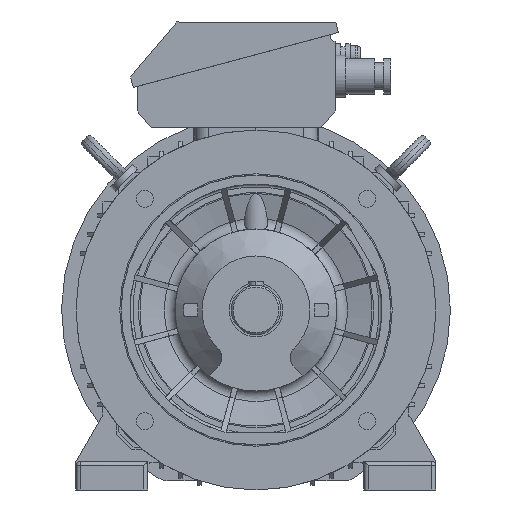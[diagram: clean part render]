
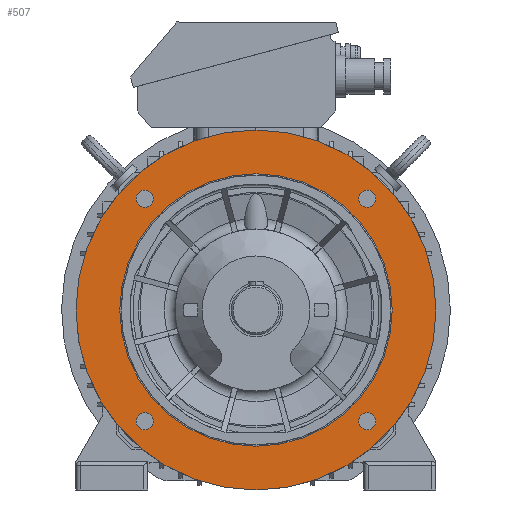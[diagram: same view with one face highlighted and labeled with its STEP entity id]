
A CAD part, front view. The second image highlights one B-rep face of the part: STEP entity #507.
In plain terms, the highlighted planar face has unit normal (0, -1, 0).
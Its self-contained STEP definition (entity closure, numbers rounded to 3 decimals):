
#507 = ADVANCED_FACE( '', ( #1870, #1871, #1872, #1873, #1874, #1875 ), #1876, .F. );
#1870 = FACE_BOUND( '', #4559, .T. );
#1871 = FACE_BOUND( '', #4560, .T. );
#1872 = FACE_BOUND( '', #4561, .T. );
#1873 = FACE_BOUND( '', #4562, .T. );
#1874 = FACE_OUTER_BOUND( '', #4563, .T. );
#1875 = FACE_BOUND( '', #4564, .T. );
#1876 = PLANE( '', #4565 );
#4559 = EDGE_LOOP( '', ( #9067 ) );
#4560 = EDGE_LOOP( '', ( #9068 ) );
#4561 = EDGE_LOOP( '', ( #9069 ) );
#4562 = EDGE_LOOP( '', ( #9070 ) );
#4563 = EDGE_LOOP( '', ( #9071 ) );
#4564 = EDGE_LOOP( '', ( #9072 ) );
#4565 = AXIS2_PLACEMENT_3D( '', #9073, #9074, #9075 );
#9067 = ORIENTED_EDGE( '', *, *, #15268, .F. );
#9068 = ORIENTED_EDGE( '', *, *, #15269, .F. );
#9069 = ORIENTED_EDGE( '', *, *, #15270, .F. );
#9070 = ORIENTED_EDGE( '', *, *, #15271, .F. );
#9071 = ORIENTED_EDGE( '', *, *, #15267, .T. );
#9072 = ORIENTED_EDGE( '', *, *, #15272, .F. );
#9073 = CARTESIAN_POINT( '', ( 199.994, -73.004, 0. ) );
#9074 = DIRECTION( '', ( 0., 1., 0. ) );
#9075 = DIRECTION( '', ( 1., 0., 0. ) );
#15267 = EDGE_CURVE( '', #18992, #18992, #18993, .T. );
#15268 = EDGE_CURVE( '', #18994, #18994, #18995, .T. );
#15269 = EDGE_CURVE( '', #18996, #18996, #18997, .T. );
#15270 = EDGE_CURVE( '', #18998, #18998, #18999, .T. );
#15271 = EDGE_CURVE( '', #19000, #19000, #19001, .T. );
#15272 = EDGE_CURVE( '', #19002, #19002, #19003, .T. );
#18992 = VERTEX_POINT( '', #27855 );
#18993 = CIRCLE( '', #27856, 199.994 );
#18994 = VERTEX_POINT( '', #27857 );
#18995 = CIRCLE( '', #27858, 9.5 );
#18996 = VERTEX_POINT( '', #27859 );
#18997 = CIRCLE( '', #27860, 9.5 );
#18998 = VERTEX_POINT( '', #27861 );
#18999 = CIRCLE( '', #27862, 9.5 );
#19000 = VERTEX_POINT( '', #27863 );
#19001 = CIRCLE( '', #27864, 9.5 );
#19002 = VERTEX_POINT( '', #27865 );
#19003 = CIRCLE( '', #27866, 151.394 );
#27855 = CARTESIAN_POINT( '', ( -199.994, -73.004, 0. ) );
#27856 = AXIS2_PLACEMENT_3D( '', #32518, #32519, #32520 );
#27857 = CARTESIAN_POINT( '', ( -123.744, -73.004, 114.244 ) );
#27858 = AXIS2_PLACEMENT_3D( '', #32521, #32522, #32523 );
#27859 = CARTESIAN_POINT( '', ( -123.744, -73.004, -133.244 ) );
#27860 = AXIS2_PLACEMENT_3D( '', #32524, #32525, #32526 );
#27861 = CARTESIAN_POINT( '', ( 123.744, -73.004, -133.244 ) );
#27862 = AXIS2_PLACEMENT_3D( '', #32527, #32528, #32529 );
#27863 = CARTESIAN_POINT( '', ( 123.744, -73.004, 114.244 ) );
#27864 = AXIS2_PLACEMENT_3D( '', #32530, #32531, #32532 );
#27865 = CARTESIAN_POINT( '', ( -151.394, -73.004, 0. ) );
#27866 = AXIS2_PLACEMENT_3D( '', #32533, #32534, #32535 );
#32518 = CARTESIAN_POINT( '', ( 0., -73.004, 0. ) );
#32519 = DIRECTION( '', ( 0., -1., 0. ) );
#32520 = DIRECTION( '', ( -1., 0., 0. ) );
#32521 = CARTESIAN_POINT( '', ( -123.744, -73.004, 123.744 ) );
#32522 = DIRECTION( '', ( 0., -1., 0. ) );
#32523 = DIRECTION( '', ( 0., 0., -1. ) );
#32524 = CARTESIAN_POINT( '', ( -123.744, -73.004, -123.744 ) );
#32525 = DIRECTION( '', ( 0., -1., 0. ) );
#32526 = DIRECTION( '', ( 0., 0., -1. ) );
#32527 = CARTESIAN_POINT( '', ( 123.744, -73.004, -123.744 ) );
#32528 = DIRECTION( '', ( 0., -1., 0. ) );
#32529 = DIRECTION( '', ( 0., 0., -1. ) );
#32530 = CARTESIAN_POINT( '', ( 123.744, -73.004, 123.744 ) );
#32531 = DIRECTION( '', ( 0., -1., 0. ) );
#32532 = DIRECTION( '', ( 0., 0., -1. ) );
#32533 = CARTESIAN_POINT( '', ( 0., -73.004, 0. ) );
#32534 = DIRECTION( '', ( 0., -1., 0. ) );
#32535 = DIRECTION( '', ( -1., 0., 0. ) );
